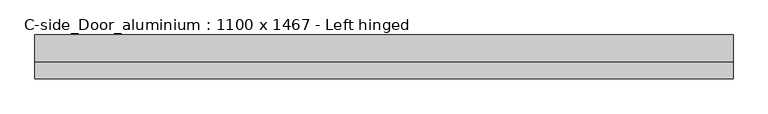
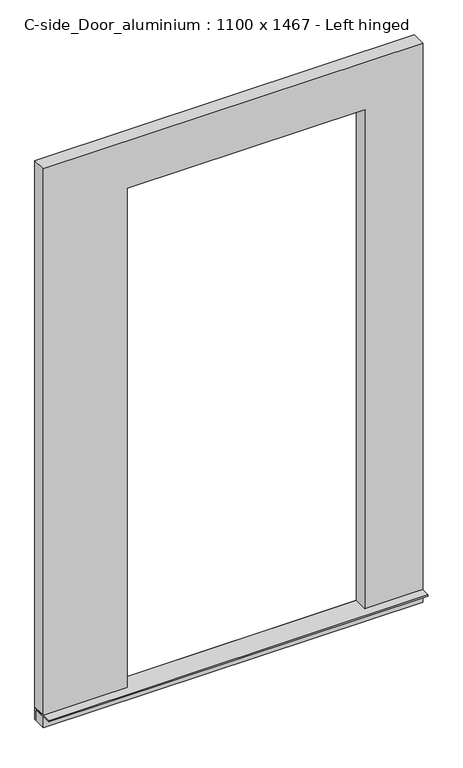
"""IFC4 building model written with IfcOpenShell, lengths in millimetres: proxy geometry, C-side_Door_aluminium : 1100 x 1467 - Left hinged."""

from ifc_helpers import new_model, si_unit, frame, origin, place, context, project, spatial, polyline, outline, extrude, source, transform, mapped, element, save


def c_side_door_aluminium_1100_x_1467_left_hinged_ad710f9b(model_context):
    return source(origin(), model_context, "Body", "SweptSolid", [
        extrude(outline(polyline([(0.0, 0.0), (-5.0, 0.0), (-5.0, 45.0), (-90.0, 45.0), (-90.0, 50.0), (0.0, 50.0), (0.0, 0.0)])), frame((0.0, 0.0, 0.0), z_axis=(1.0, 0.0, 0.0), x_axis=(0.0, 1.0, 0.0)), (0.0, 0.0, 1.0), 1440.0),
        extrude(outline(polyline([(2240.0, 0.0), (0.0, 0.0), (0.0, 1440.0), (2240.0, 1440.0), (2240.0, 0.0)]), holes=[polyline([(2050.0, 320.0), (2050.0, 1220.0), (50.0, 1220.0), (50.0, 320.0), (2050.0, 320.0)])]), frame((0.0, -55.0, 0.0), z_axis=(0.0, 1.0, 0.0), x_axis=(0.0, 0.0, 1.0)), (0.0, 0.0, 1.0), 55.0),
    ])


if __name__ == "__main__":
    model = new_model("IFC4")
    model_context = context("Model", 3, world=origin())
    ifc_project = project(units=[si_unit("LENGTHUNIT", "METRE", prefix="MILLI")], contexts=[model_context])
    site = spatial("IfcSite", under=ifc_project)
    building = spatial("IfcBuilding", under=site)
    placement = place(None, origin())
    c_side_door_aluminium_1100_x_1467_left_hinged_shape = c_side_door_aluminium_1100_x_1467_left_hinged_ad710f9b(model_context)
    element("IfcBuildingElementProxy", 1, Name="C-side_Door_aluminium : 1100 x 1467 - Left hinged", ObjectType="C-side_Door_aluminium : 1100 x 1467 - Left hinged", at=placement, inside=building, context=model_context, shape_type="MappedRepresentation", body=[
        mapped(c_side_door_aluminium_1100_x_1467_left_hinged_shape, transform((0.0, 0.0, 0.0), x_axis=(1.0, 0.0, 0.0), y_axis=(0.0, 1.0, 0.0), z_axis=(0.0, 0.0, 1.0))),
    ])
    save(model, "model.ifc")
